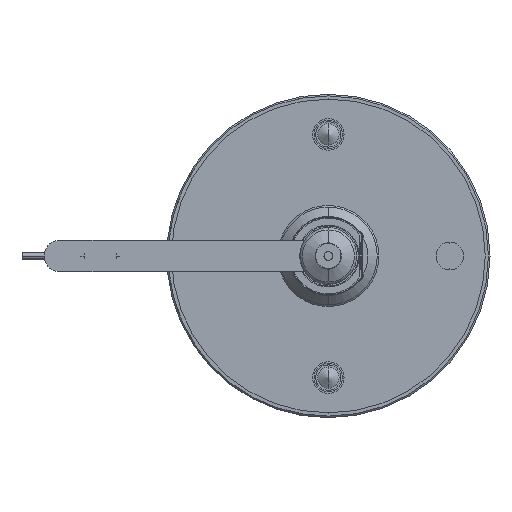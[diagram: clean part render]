
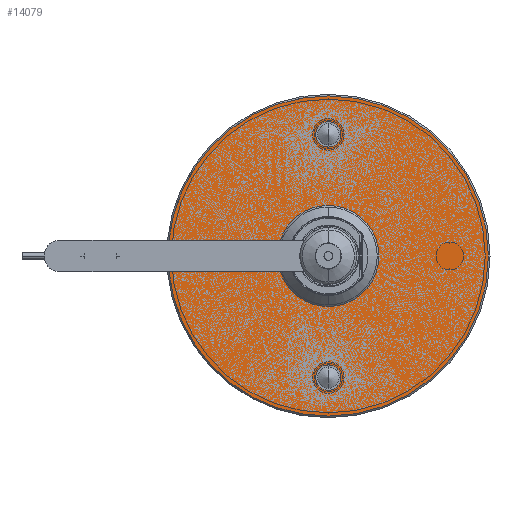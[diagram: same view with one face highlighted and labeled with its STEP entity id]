
A CAD part, front view. The second image highlights one B-rep face of the part: STEP entity #14079.
In plain terms, the highlighted planar face has unit normal (0, -1, 0).
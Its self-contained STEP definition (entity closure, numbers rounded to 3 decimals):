
#10 = ORIENTED_EDGE ( 'NONE', *, *, #23737, .F. ) ;
#154 = AXIS2_PLACEMENT_3D ( 'NONE', #5507, #3749, #9423 ) ;
#665 = CARTESIAN_POINT ( 'NONE',  ( 0., 38.122, 0. ) ) ;
#760 = AXIS2_PLACEMENT_3D ( 'NONE', #4754, #24260, #10429 ) ;
#1820 = CARTESIAN_POINT ( 'NONE',  ( 0., 38.122, 0. ) ) ;
#2353 = AXIS2_PLACEMENT_3D ( 'NONE', #21712, #20093, #2730 ) ;
#2431 = CARTESIAN_POINT ( 'NONE',  ( 0., 38.122, -34.5 ) ) ;
#2585 = AXIS2_PLACEMENT_3D ( 'NONE', #14027, #4285, #11998 ) ;
#2589 = DIRECTION ( 'NONE',  ( 0., 0., -1. ) ) ;
#2730 = DIRECTION ( 'NONE',  ( 0., 0., 1. ) ) ;
#2737 = FACE_BOUND ( 'NONE', #11407, .T. ) ;
#2745 = EDGE_CURVE ( 'NONE', #15446, #22136, #8914, .T. ) ;
#3002 = DIRECTION ( 'NONE',  ( 0., 0., -1. ) ) ;
#3008 = AXIS2_PLACEMENT_3D ( 'NONE', #15746, #23483, #19822 ) ;
#3302 = EDGE_CURVE ( 'NONE', #15446, #3535, #4600, .T. ) ;
#3433 = DIRECTION ( 'NONE',  ( 0., -1., 0. ) ) ;
#3535 = VERTEX_POINT ( 'NONE', #18799 ) ;
#3583 = CIRCLE ( 'NONE', #2353, 4. ) ;
#3647 = DIRECTION ( 'NONE',  ( 0., 0., 1. ) ) ;
#3747 = CIRCLE ( 'NONE', #8536, 50.7 ) ;
#3749 = DIRECTION ( 'NONE',  ( 0., -1., 0. ) ) ;
#4086 = EDGE_CURVE ( 'NONE', #7803, #21129, #24743, .T. ) ;
#4285 = DIRECTION ( 'NONE',  ( 0., -1., 0. ) ) ;
#4466 = CARTESIAN_POINT ( 'NONE',  ( -50.7, 38.122, -5. ) ) ;
#4600 = LINE ( 'NONE', #4466, #19895 ) ;
#4754 = CARTESIAN_POINT ( 'NONE',  ( -50.7, 38.122, 0. ) ) ;
#4884 = FACE_OUTER_BOUND ( 'NONE', #23870, .T. ) ;
#4932 = AXIS2_PLACEMENT_3D ( 'NONE', #13254, #20995, #3647 ) ;
#5403 = CIRCLE ( 'NONE', #2585, 50.7 ) ;
#5507 = CARTESIAN_POINT ( 'NONE',  ( 0., 38.122, 38.5 ) ) ;
#5604 = DIRECTION ( 'NONE',  ( 0., -1., 0. ) ) ;
#5640 = AXIS2_PLACEMENT_3D ( 'NONE', #7110, #22716, #20828 ) ;
#5833 = CARTESIAN_POINT ( 'NONE',  ( 0., 38.122, -16. ) ) ;
#5857 = VERTEX_POINT ( 'NONE', #14482 ) ;
#6635 = FACE_BOUND ( 'NONE', #9784, .T. ) ;
#7110 = CARTESIAN_POINT ( 'NONE',  ( 0., 38.122, 0. ) ) ;
#7321 = CARTESIAN_POINT ( 'NONE',  ( 0., 38.122, 0. ) ) ;
#7367 = AXIS2_PLACEMENT_3D ( 'NONE', #1820, #5604, #21069 ) ;
#7641 = CIRCLE ( 'NONE', #5640, 16. ) ;
#7803 = VERTEX_POINT ( 'NONE', #15395 ) ;
#8377 = CIRCLE ( 'NONE', #16085, 16. ) ;
#8411 = VERTEX_POINT ( 'NONE', #20252 ) ;
#8536 = AXIS2_PLACEMENT_3D ( 'NONE', #665, #14224, #2589 ) ;
#8846 = ORIENTED_EDGE ( 'NONE', *, *, #23800, .F. ) ;
#8914 = CIRCLE ( 'NONE', #15411, 50.7 ) ;
#9423 = DIRECTION ( 'NONE',  ( 0., 0., 1. ) ) ;
#9492 = DIRECTION ( 'NONE',  ( 1., 0., 0. ) ) ;
#9714 = EDGE_CURVE ( 'NONE', #14495, #14929, #8377, .T. ) ;
#9784 = EDGE_LOOP ( 'NONE', ( #10, #13694 ) ) ;
#10429 = DIRECTION ( 'NONE',  ( 0., 0., 1. ) ) ;
#10567 = PLANE ( 'NONE',  #760 ) ;
#10805 = ORIENTED_EDGE ( 'NONE', *, *, #14804, .F. ) ;
#11064 = CIRCLE ( 'NONE', #154, 4. ) ;
#11407 = EDGE_LOOP ( 'NONE', ( #13098, #8846 ) ) ;
#11880 = EDGE_CURVE ( 'NONE', #24779, #22007, #3583, .T. ) ;
#11998 = DIRECTION ( 'NONE',  ( 0., 0., -1. ) ) ;
#12054 = DIRECTION ( 'NONE',  ( 1., 0., 0. ) ) ;
#12224 = CARTESIAN_POINT ( 'NONE',  ( 0., 38.122, 34.5 ) ) ;
#13094 = ORIENTED_EDGE ( 'NONE', *, *, #21420, .T. ) ;
#13098 = ORIENTED_EDGE ( 'NONE', *, *, #11880, .F. ) ;
#13254 = CARTESIAN_POINT ( 'NONE',  ( 0., 38.122, 38.5 ) ) ;
#13522 = VECTOR ( 'NONE', #9492, 1000. ) ;
#13694 = ORIENTED_EDGE ( 'NONE', *, *, #4086, .F. ) ;
#14027 = CARTESIAN_POINT ( 'NONE',  ( 0., 38.122, 0. ) ) ;
#14051 = ORIENTED_EDGE ( 'NONE', *, *, #24998, .T. ) ;
#14079 = ADVANCED_FACE ( 'NONE', ( #6635, #2737, #4884 ), #10567, .F. ) ;
#14224 = DIRECTION ( 'NONE',  ( 0., -1., 0. ) ) ;
#14482 = CARTESIAN_POINT ( 'NONE',  ( 0., 38.122, 50.7 ) ) ;
#14495 = VERTEX_POINT ( 'NONE', #23983 ) ;
#14804 = EDGE_CURVE ( 'NONE', #3535, #15951, #7641, .T. ) ;
#14929 = VERTEX_POINT ( 'NONE', #23447 ) ;
#15395 = CARTESIAN_POINT ( 'NONE',  ( 0., 38.122, 42.5 ) ) ;
#15411 = AXIS2_PLACEMENT_3D ( 'NONE', #7321, #3433, #22911 ) ;
#15446 = VERTEX_POINT ( 'NONE', #17778 ) ;
#15746 = CARTESIAN_POINT ( 'NONE',  ( 0., 38.122, -38.5 ) ) ;
#15951 = VERTEX_POINT ( 'NONE', #5833 ) ;
#16085 = AXIS2_PLACEMENT_3D ( 'NONE', #20102, #22116, #3002 ) ;
#17227 = CARTESIAN_POINT ( 'NONE',  ( -50.7, 38.122, 5. ) ) ;
#17407 = CARTESIAN_POINT ( 'NONE',  ( 0., 38.122, -50.7 ) ) ;
#17778 = CARTESIAN_POINT ( 'NONE',  ( -50.453, 38.122, -5. ) ) ;
#18193 = CARTESIAN_POINT ( 'NONE',  ( 0., 38.122, -42.5 ) ) ;
#18799 = CARTESIAN_POINT ( 'NONE',  ( -15.199, 38.122, -5. ) ) ;
#19059 = ORIENTED_EDGE ( 'NONE', *, *, #2745, .T. ) ;
#19313 = EDGE_CURVE ( 'NONE', #15951, #14495, #20338, .T. ) ;
#19822 = DIRECTION ( 'NONE',  ( 0., 0., 1. ) ) ;
#19895 = VECTOR ( 'NONE', #12054, 1000. ) ;
#20093 = DIRECTION ( 'NONE',  ( 0., -1., 0. ) ) ;
#20102 = CARTESIAN_POINT ( 'NONE',  ( 0., 38.122, 0. ) ) ;
#20252 = CARTESIAN_POINT ( 'NONE',  ( -50.453, 38.122, 5. ) ) ;
#20338 = CIRCLE ( 'NONE', #7367, 16. ) ;
#20828 = DIRECTION ( 'NONE',  ( 0., 0., -1. ) ) ;
#20844 = ORIENTED_EDGE ( 'NONE', *, *, #23026, .T. ) ;
#20995 = DIRECTION ( 'NONE',  ( 0., -1., 0. ) ) ;
#21069 = DIRECTION ( 'NONE',  ( 0., 0., -1. ) ) ;
#21129 = VERTEX_POINT ( 'NONE', #12224 ) ;
#21420 = EDGE_CURVE ( 'NONE', #22136, #5857, #3747, .T. ) ;
#21712 = CARTESIAN_POINT ( 'NONE',  ( 0., 38.122, -38.5 ) ) ;
#21905 = ORIENTED_EDGE ( 'NONE', *, *, #9714, .F. ) ;
#22007 = VERTEX_POINT ( 'NONE', #18193 ) ;
#22116 = DIRECTION ( 'NONE',  ( 0., -1., 0. ) ) ;
#22136 = VERTEX_POINT ( 'NONE', #17407 ) ;
#22446 = ORIENTED_EDGE ( 'NONE', *, *, #19313, .F. ) ;
#22716 = DIRECTION ( 'NONE',  ( 0., -1., 0. ) ) ;
#22911 = DIRECTION ( 'NONE',  ( 0., 0., -1. ) ) ;
#23026 = EDGE_CURVE ( 'NONE', #5857, #8411, #5403, .T. ) ;
#23447 = CARTESIAN_POINT ( 'NONE',  ( -15.199, 38.122, 5. ) ) ;
#23483 = DIRECTION ( 'NONE',  ( 0., -1., 0. ) ) ;
#23737 = EDGE_CURVE ( 'NONE', #21129, #7803, #11064, .T. ) ;
#23800 = EDGE_CURVE ( 'NONE', #22007, #24779, #24436, .T. ) ;
#23870 = EDGE_LOOP ( 'NONE', ( #19059, #13094, #20844, #14051, #21905, #22446, #10805, #24348 ) ) ;
#23983 = CARTESIAN_POINT ( 'NONE',  ( 0., 38.122, 16. ) ) ;
#24260 = DIRECTION ( 'NONE',  ( 0., 1., 0. ) ) ;
#24348 = ORIENTED_EDGE ( 'NONE', *, *, #3302, .F. ) ;
#24436 = CIRCLE ( 'NONE', #3008, 4. ) ;
#24708 = LINE ( 'NONE', #17227, #13522 ) ;
#24743 = CIRCLE ( 'NONE', #4932, 4. ) ;
#24779 = VERTEX_POINT ( 'NONE', #2431 ) ;
#24998 = EDGE_CURVE ( 'NONE', #8411, #14929, #24708, .T. ) ;
